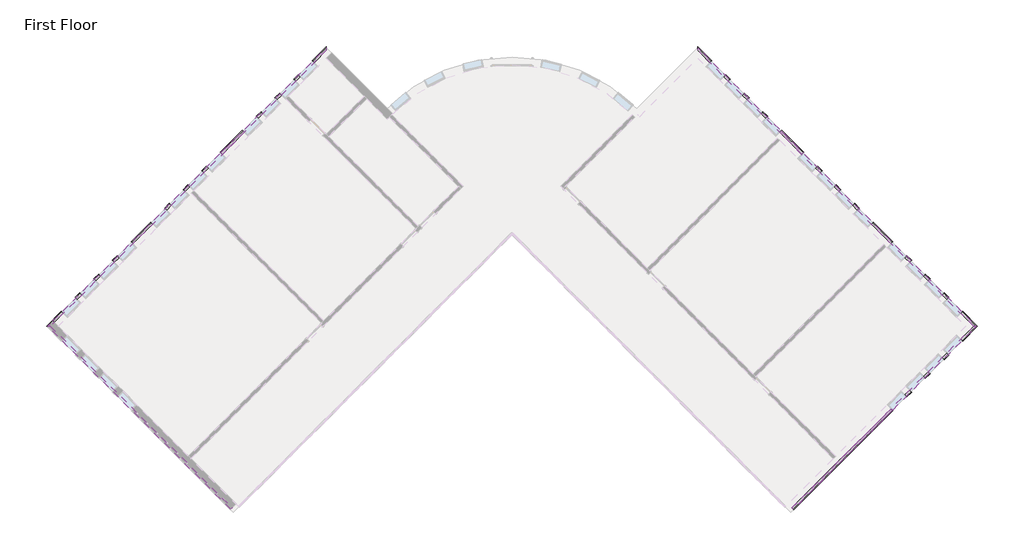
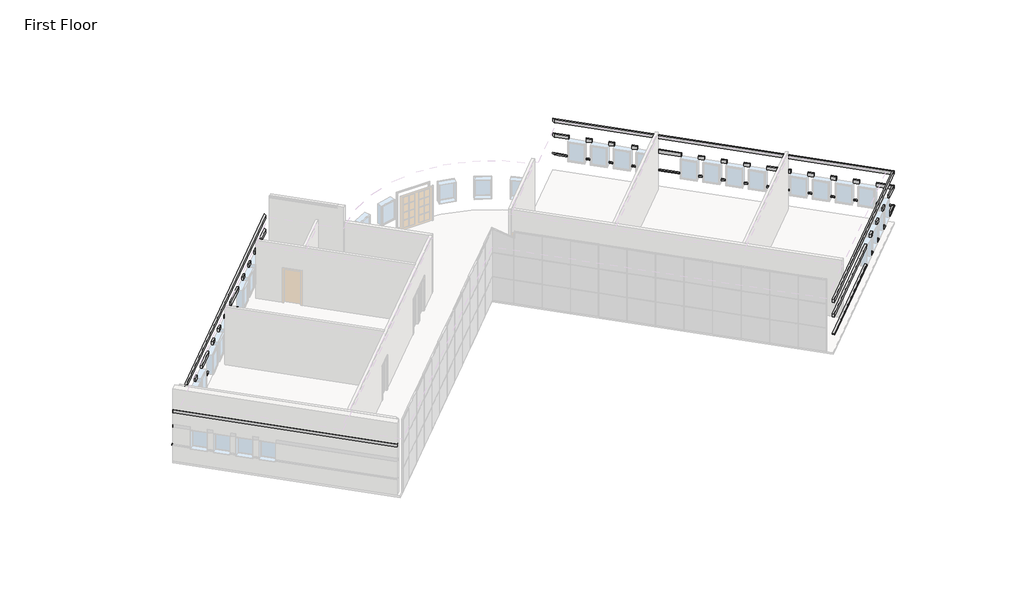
# One storey, part 5 of 5: 10 proxies.
"""IFC4 building model written with IfcOpenShell, lengths in millimetres."""

from ifc_helpers import new_model, si_unit, frame, origin, place, context, project, spatial, polyline, outline, extrude, faceted_brep, element, save

model = new_model("IFC4")

# Units and contexts
model_context = context("Model", 3, world=origin())
ifc_project = project(units=[si_unit("LENGTHUNIT", "METRE", prefix="MILLI")], contexts=[model_context])

# Site, building, storey
site = spatial("IfcSite", under=ifc_project)
building = spatial("IfcBuilding", under=site)
storey = spatial("IfcBuildingStorey", under=building, Name="First Floor", Elevation=0.0)

# Proxies
placement = place(None, origin())
element("IfcBuildingElementProxy", 1, Name="Wall Sweeps", at=placement, inside=storey, context=model_context, shape_type="Brep", body=[
    faceted_brep([(5753.0175119, 11443.3655905, 1085.85), (5753.0175119, 11573.5793042, 1085.85), (5753.0175119, 11622.9707129, 1041.4), (5753.0175119, 11622.9707129, 1016.0), (5753.0175119, 11443.3655905, 1016.0), (6317.415551, 10878.9675514, 1085.85), (6317.415551, 10878.9675514, 1016.0), (6382.5224079, 10944.0744083, 1016.0), (6407.2181122, 10968.7701126, 1016.0), (6407.2181122, 10968.7701126, 1041.4), (6382.5224079, 10944.0744083, 1085.85), (5937.1127624, 11259.27034, 1085.85), (5937.1127624, 11259.27034, 1016.0)], [[[0, 1, 2, 3, 4]], [[5, 6, 7, 8, 9, 10]], [[1, 0, 11, 5, 10]], [[2, 1, 10, 9]], [[3, 2, 9, 8]], [[4, 3, 8, 7, 6, 12]], [[0, 4, 12, 6, 5, 11]]]),
    faceted_brep([(6963.9939917, 10232.3891107, 1085.85), (7029.1008486, 10297.4959676, 1085.85), (7053.7965529, 10322.1916719, 1041.4), (7053.7965529, 10322.1916719, 1016.0), (7029.1008486, 10297.4959676, 1016.0), (6963.9939917, 10232.3891107, 1016.0), (7179.5201386, 10016.8629638, 1085.85), (7179.5201386, 10016.8629638, 1016.0), (7244.6269955, 10081.9698207, 1016.0), (7269.3226998, 10106.665525, 1016.0), (7269.3226998, 10106.665525, 1041.4), (7244.6269955, 10081.9698207, 1085.85)], [[[0, 1, 2, 3, 4, 5]], [[6, 7, 8, 9, 10, 11]], [[1, 0, 6, 11]], [[2, 1, 11, 10]], [[3, 2, 10, 9]], [[5, 4, 3, 9, 8, 7]], [[0, 5, 7, 6]]]),
    faceted_brep([(7826.0985793, 9370.2845231, 1085.85), (7891.2054362, 9435.39138, 1085.85), (7915.9011405, 9460.0870843, 1041.4), (7915.9011405, 9460.0870843, 1016.0), (7891.2054362, 9435.39138, 1016.0), (7826.0985793, 9370.2845231, 1016.0), (8041.6247262, 9154.7583762, 1085.85), (8041.6247262, 9154.7583762, 1016.0), (8106.7315831, 9219.8652331, 1016.0), (8131.4272874, 9244.5609374, 1016.0), (8131.4272874, 9244.5609374, 1041.4), (8106.7315831, 9219.8652331, 1085.85)], [[[0, 1, 2, 3, 4, 5]], [[6, 7, 8, 9, 10, 11]], [[1, 0, 6, 11]], [[2, 1, 11, 10]], [[3, 2, 10, 9]], [[5, 4, 3, 9, 8, 7]], [[0, 5, 7, 6]]]),
    faceted_brep([(8688.2031669, 8508.1799355, 1085.85), (8753.3100238, 8573.2867923, 1085.85), (8778.0057282, 8597.9824967, 1041.4), (8778.0057282, 8597.9824967, 1016.0), (8753.3100238, 8573.2867923, 1016.0), (8688.2031669, 8508.1799355, 1016.0), (8903.7293139, 8292.6537886, 1085.85), (8903.7293139, 8292.6537886, 1016.0), (8968.8361707, 8357.7606454, 1016.0), (8993.5318751, 8382.4563498, 1016.0), (8993.5318751, 8382.4563498, 1041.4), (8968.8361707, 8357.7606454, 1085.85)], [[[0, 1, 2, 3, 4, 5]], [[6, 7, 8, 9, 10, 11]], [[1, 0, 6, 11]], [[2, 1, 11, 10]], [[3, 2, 10, 9]], [[5, 4, 3, 9, 8, 7]], [[0, 5, 7, 6]]]),
    faceted_brep([(9550.3077546, 7646.0753478, 1085.85), (9615.4146114, 7711.1822047, 1085.85), (9640.1103158, 7735.877909, 1041.4), (9640.1103158, 7735.877909, 1016.0), (9615.4146114, 7711.1822047, 1016.0), (9550.3077546, 7646.0753478, 1016.0), (10574.7639411, 6621.6191613, 1085.85), (10574.7639411, 6621.6191613, 1016.0), (10639.870798, 6686.7260182, 1016.0), (10664.5665023, 6711.4217225, 1016.0), (10664.5665023, 6711.4217225, 1041.4), (10639.870798, 6686.7260182, 1085.85)], [[[0, 1, 2, 3, 4, 5]], [[6, 7, 8, 9, 10, 11]], [[1, 0, 6, 11]], [[2, 1, 11, 10]], [[3, 2, 10, 9]], [[5, 4, 3, 9, 8, 7]], [[0, 5, 7, 6]]]),
    faceted_brep([(11221.3423818, 5975.0407206, 1085.85), (11286.4492387, 6040.1475775, 1085.85), (11311.144943, 6064.8432818, 1041.4), (11311.144943, 6064.8432818, 1016.0), (11286.4492387, 6040.1475775, 1016.0), (11221.3423818, 5975.0407206, 1016.0), (11436.8685287, 5759.5145737, 1085.85), (11436.8685287, 5759.5145737, 1016.0), (11501.9753856, 5824.6214306, 1016.0), (11526.6710899, 5849.3171349, 1016.0), (11526.6710899, 5849.3171349, 1041.4), (11501.9753856, 5824.6214306, 1085.85)], [[[0, 1, 2, 3, 4, 5]], [[6, 7, 8, 9, 10, 11]], [[1, 0, 6, 11]], [[2, 1, 11, 10]], [[3, 2, 10, 9]], [[5, 4, 3, 9, 8, 7]], [[0, 5, 7, 6]]]),
    faceted_brep([(12083.4469694, 5112.936133, 1085.85), (12148.5538263, 5178.0429899, 1085.85), (12173.2495306, 5202.7386942, 1041.4), (12173.2495306, 5202.7386942, 1016.0), (12148.5538263, 5178.0429899, 1016.0), (12083.4469694, 5112.936133, 1016.0), (12298.9731163, 4897.4099861, 1085.85), (12298.9731163, 4897.4099861, 1016.0), (12364.0799732, 4962.516843, 1016.0), (12388.7756775, 4987.2125473, 1016.0), (12388.7756775, 4987.2125473, 1041.4), (12364.0799732, 4962.516843, 1085.85)], [[[0, 1, 2, 3, 4, 5]], [[6, 7, 8, 9, 10, 11]], [[1, 0, 6, 11]], [[2, 1, 11, 10]], [[3, 2, 10, 9]], [[5, 4, 3, 9, 8, 7]], [[0, 5, 7, 6]]]),
    faceted_brep([(12945.551557, 4250.8315454, 1085.85), (13010.6584139, 4315.9384023, 1085.85), (13035.3541182, 4340.6341066, 1041.4), (13035.3541182, 4340.6341066, 1016.0), (13010.6584139, 4315.9384023, 1016.0), (12945.551557, 4250.8315454, 1016.0), (13161.0777039, 4035.3053985, 1085.85), (13161.0777039, 4035.3053985, 1016.0), (13226.1845608, 4100.4122553, 1016.0), (13250.8802652, 4125.1079597, 1016.0), (13250.8802652, 4125.1079597, 1041.4), (13226.1845608, 4100.4122553, 1085.85)], [[[0, 1, 2, 3, 4, 5]], [[6, 7, 8, 9, 10, 11]], [[1, 0, 6, 11]], [[2, 1, 11, 10]], [[3, 2, 10, 9]], [[5, 4, 3, 9, 8, 7]], [[0, 5, 7, 6]]]),
    faceted_brep([(13807.6561447, 3388.7269578, 1085.85), (13872.7630015, 3453.8338146, 1085.85), (13897.4587059, 3478.529519, 1041.4), (13897.4587059, 3478.529519, 1016.0), (13872.7630015, 3453.8338146, 1016.0), (13807.6561447, 3388.7269578, 1016.0), (14723.1708449, 2473.2122576, 1085.85), (14723.1708449, 2473.2122576, 1016.0), (14788.2777017, 2538.3191144, 1016.0), (14812.9734061, 2563.0148188, 1016.0), (14812.9734061, 2563.0148188, 1041.4), (14788.2777017, 2538.3191144, 1085.85)], [[[0, 1, 2, 3, 4, 5]], [[6, 7, 8, 9, 10, 11]], [[1, 0, 6, 11]], [[2, 1, 11, 10]], [[3, 2, 10, 9]], [[5, 4, 3, 9, 8, 7]], [[0, 5, 7, 6]]]),
    faceted_brep([(15369.7492856, 1826.6338168, 1085.85), (15434.8561424, 1891.7406737, 1085.85), (15459.5518468, 1916.4363781, 1041.4), (15459.5518468, 1916.4363781, 1016.0), (15434.8561424, 1891.7406737, 1016.0), (15369.7492856, 1826.6338168, 1016.0), (15585.2754325, 1611.1076699, 1085.85), (15585.2754325, 1611.1076699, 1016.0), (15650.3822894, 1676.2145268, 1016.0), (15675.0779937, 1700.9102311, 1016.0), (15675.0779937, 1700.9102311, 1041.4), (15650.3822894, 1676.2145268, 1085.85)], [[[0, 1, 2, 3, 4, 5]], [[6, 7, 8, 9, 10, 11]], [[1, 0, 6, 11]], [[2, 1, 11, 10]], [[3, 2, 10, 9]], [[5, 4, 3, 9, 8, 7]], [[0, 5, 7, 6]]]),
    faceted_brep([(16231.8538732, 964.5292292, 1085.85), (16296.9607301, 1029.6360861, 1085.85), (16321.6564344, 1054.3317904, 1041.4), (16321.6564344, 1054.3317904, 1016.0), (16296.9607301, 1029.6360861, 1016.0), (16231.8538732, 964.5292292, 1016.0), (16447.3800201, 749.0030823, 1085.85), (16447.3800201, 749.0030823, 1016.0), (16512.486877, 814.1099392, 1016.0), (16537.1825813, 838.8056435, 1016.0), (16537.1825813, 838.8056435, 1041.4), (16512.486877, 814.1099392, 1085.85)], [[[0, 1, 2, 3, 4, 5]], [[6, 7, 8, 9, 10, 11]], [[1, 0, 6, 11]], [[2, 1, 11, 10]], [[3, 2, 10, 9]], [[5, 4, 3, 9, 8, 7]], [[0, 5, 7, 6]]]),
    faceted_brep([(17093.9584608, 102.4246416, 1085.85), (17159.0653177, 167.5314985, 1085.85), (17183.761022, 192.2272028, 1041.4), (17183.761022, 192.2272028, 1016.0), (17159.0653177, 167.5314985, 1016.0), (17093.9584608, 102.4246416, 1016.0), (17309.4846077, -113.1015053, 1085.85), (17309.4846077, -113.1015053, 1016.0), (17374.5914646, -47.9946484, 1016.0), (17399.2871689, -23.2989441, 1016.0), (17399.2871689, -23.2989441, 1041.4), (17374.5914646, -47.9946484, 1085.85)], [[[0, 1, 2, 3, 4, 5]], [[6, 7, 8, 9, 10, 11]], [[1, 0, 6, 11]], [[2, 1, 11, 10]], [[3, 2, 10, 9]], [[5, 4, 3, 9, 8, 7]], [[0, 5, 7, 6]]]),
    faceted_brep([(17956.0630484, -759.679946, 1085.85), (18021.1699053, -694.5730891, 1085.85), (18045.8656096, -669.8773848, 1041.4), (18045.8656096, -669.8773848, 1016.0), (18021.1699053, -694.5730891, 1016.0), (17956.0630484, -759.679946, 1016.0), (18554.3726125, -1357.9895101, 1085.85), (18554.3726125, -1357.9895101, 1016.0), (18733.9777349, -1357.9895101, 1016.0), (18733.9777349, -1357.9895101, 1041.4), (18684.5863263, -1357.9895101, 1085.85)], [[[0, 1, 2, 3, 4, 5]], [[6, 7, 8, 9, 10]], [[1, 0, 6, 10]], [[2, 1, 10, 9]], [[3, 2, 9, 8]], [[5, 4, 3, 8, 7]], [[0, 5, 7, 6]]]),
])
element("IfcBuildingElementProxy", 2, Name="Wall Sweeps", at=placement, inside=storey, context=model_context, shape_type="Brep", body=[
    faceted_brep([(5753.0175119, 11573.5793042, 2336.8), (5753.0175119, 11573.5793042, 2133.6), (5753.0175119, 11443.3655905, 2133.6), (5753.0175119, 11443.3655905, 2336.8), (6382.5224079, 10944.0744083, 2336.8), (6317.415551, 10878.9675514, 2336.8), (6317.415551, 10878.9675514, 2133.6), (6382.5224079, 10944.0744083, 2133.6), (6002.2196193, 11324.3771969, 2336.8), (6002.2196193, 11324.3771969, 2133.6), (5937.1127624, 11259.27034, 2133.6), (5937.1127624, 11259.27034, 2336.8)], [[[0, 1, 2, 3]], [[4, 5, 6, 7]], [[1, 0, 8, 4, 7, 9]], [[2, 1, 9, 7, 6, 10]], [[3, 2, 10, 6, 5, 11]], [[0, 3, 11, 5, 4, 8]]]),
    faceted_brep([(7029.1008486, 10297.4959676, 2336.8), (7029.1008486, 10297.4959676, 2133.6), (6963.9939917, 10232.3891107, 2133.6), (6963.9939917, 10232.3891107, 2336.8), (7244.6269955, 10081.9698207, 2336.8), (7179.5201386, 10016.8629638, 2336.8), (7179.5201386, 10016.8629638, 2133.6), (7244.6269955, 10081.9698207, 2133.6)], [[[0, 1, 2, 3]], [[4, 5, 6, 7]], [[1, 0, 4, 7]], [[2, 1, 7, 6]], [[3, 2, 6, 5]], [[0, 3, 5, 4]]]),
    faceted_brep([(7891.2054362, 9435.39138, 2336.8), (7891.2054362, 9435.39138, 2133.6), (7826.0985793, 9370.2845231, 2133.6), (7826.0985793, 9370.2845231, 2336.8), (8106.7315831, 9219.8652331, 2336.8), (8041.6247262, 9154.7583762, 2336.8), (8041.6247262, 9154.7583762, 2133.6), (8106.7315831, 9219.8652331, 2133.6)], [[[0, 1, 2, 3]], [[4, 5, 6, 7]], [[1, 0, 4, 7]], [[2, 1, 7, 6]], [[3, 2, 6, 5]], [[0, 3, 5, 4]]]),
    faceted_brep([(8753.3100238, 8573.2867923, 2336.8), (8753.3100238, 8573.2867923, 2133.6), (8688.2031669, 8508.1799355, 2133.6), (8688.2031669, 8508.1799355, 2336.8), (8968.8361707, 8357.7606454, 2336.8), (8903.7293139, 8292.6537886, 2336.8), (8903.7293139, 8292.6537886, 2133.6), (8968.8361707, 8357.7606454, 2133.6)], [[[0, 1, 2, 3]], [[4, 5, 6, 7]], [[1, 0, 4, 7]], [[2, 1, 7, 6]], [[3, 2, 6, 5]], [[0, 3, 5, 4]]]),
    faceted_brep([(9615.4146114, 7711.1822047, 2336.8), (9615.4146114, 7711.1822047, 2133.6), (9550.3077546, 7646.0753478, 2133.6), (9550.3077546, 7646.0753478, 2336.8), (10639.870798, 6686.7260182, 2336.8), (10574.7639411, 6621.6191613, 2336.8), (10574.7639411, 6621.6191613, 2133.6), (10639.870798, 6686.7260182, 2133.6)], [[[0, 1, 2, 3]], [[4, 5, 6, 7]], [[1, 0, 4, 7]], [[2, 1, 7, 6]], [[3, 2, 6, 5]], [[0, 3, 5, 4]]]),
    faceted_brep([(11286.4492387, 6040.1475775, 2336.8), (11286.4492387, 6040.1475775, 2133.6), (11221.3423818, 5975.0407206, 2133.6), (11221.3423818, 5975.0407206, 2336.8), (11501.9753856, 5824.6214306, 2336.8), (11436.8685287, 5759.5145737, 2336.8), (11436.8685287, 5759.5145737, 2133.6), (11501.9753856, 5824.6214306, 2133.6)], [[[0, 1, 2, 3]], [[4, 5, 6, 7]], [[1, 0, 4, 7]], [[2, 1, 7, 6]], [[3, 2, 6, 5]], [[0, 3, 5, 4]]]),
    faceted_brep([(12148.5538263, 5178.0429899, 2336.8), (12148.5538263, 5178.0429899, 2133.6), (12083.4469694, 5112.936133, 2133.6), (12083.4469694, 5112.936133, 2336.8), (12364.0799732, 4962.516843, 2336.8), (12298.9731163, 4897.4099861, 2336.8), (12298.9731163, 4897.4099861, 2133.6), (12364.0799732, 4962.516843, 2133.6)], [[[0, 1, 2, 3]], [[4, 5, 6, 7]], [[1, 0, 4, 7]], [[2, 1, 7, 6]], [[3, 2, 6, 5]], [[0, 3, 5, 4]]]),
    faceted_brep([(13010.6584139, 4315.9384023, 2336.8), (13010.6584139, 4315.9384023, 2133.6), (12945.551557, 4250.8315454, 2133.6), (12945.551557, 4250.8315454, 2336.8), (13226.1845608, 4100.4122553, 2336.8), (13161.0777039, 4035.3053985, 2336.8), (13161.0777039, 4035.3053985, 2133.6), (13226.1845608, 4100.4122553, 2133.6)], [[[0, 1, 2, 3]], [[4, 5, 6, 7]], [[1, 0, 4, 7]], [[2, 1, 7, 6]], [[3, 2, 6, 5]], [[0, 3, 5, 4]]]),
    faceted_brep([(13872.7630015, 3453.8338146, 2336.8), (13872.7630015, 3453.8338146, 2133.6), (13807.6561447, 3388.7269578, 2133.6), (13807.6561447, 3388.7269578, 2336.8), (14788.2777017, 2538.3191144, 2336.8), (14723.1708449, 2473.2122576, 2336.8), (14723.1708449, 2473.2122576, 2133.6), (14788.2777017, 2538.3191144, 2133.6)], [[[0, 1, 2, 3]], [[4, 5, 6, 7]], [[1, 0, 4, 7]], [[2, 1, 7, 6]], [[3, 2, 6, 5]], [[0, 3, 5, 4]]]),
    faceted_brep([(15434.8561424, 1891.7406737, 2336.8), (15434.8561424, 1891.7406737, 2133.6), (15369.7492856, 1826.6338168, 2133.6), (15369.7492856, 1826.6338168, 2336.8), (15650.3822894, 1676.2145268, 2336.8), (15585.2754325, 1611.1076699, 2336.8), (15585.2754325, 1611.1076699, 2133.6), (15650.3822894, 1676.2145268, 2133.6)], [[[0, 1, 2, 3]], [[4, 5, 6, 7]], [[1, 0, 4, 7]], [[2, 1, 7, 6]], [[3, 2, 6, 5]], [[0, 3, 5, 4]]]),
    faceted_brep([(16296.9607301, 1029.6360861, 2336.8), (16296.9607301, 1029.6360861, 2133.6), (16231.8538732, 964.5292292, 2133.6), (16231.8538732, 964.5292292, 2336.8), (16512.486877, 814.1099392, 2336.8), (16447.3800201, 749.0030823, 2336.8), (16447.3800201, 749.0030823, 2133.6), (16512.486877, 814.1099392, 2133.6)], [[[0, 1, 2, 3]], [[4, 5, 6, 7]], [[1, 0, 4, 7]], [[2, 1, 7, 6]], [[3, 2, 6, 5]], [[0, 3, 5, 4]]]),
    faceted_brep([(17159.0653177, 167.5314985, 2336.8), (17159.0653177, 167.5314985, 2133.6), (17093.9584608, 102.4246416, 2133.6), (17093.9584608, 102.4246416, 2336.8), (17374.5914646, -47.9946484, 2336.8), (17309.4846077, -113.1015053, 2336.8), (17309.4846077, -113.1015053, 2133.6), (17374.5914646, -47.9946484, 2133.6)], [[[0, 1, 2, 3]], [[4, 5, 6, 7]], [[1, 0, 4, 7]], [[2, 1, 7, 6]], [[3, 2, 6, 5]], [[0, 3, 5, 4]]]),
    faceted_brep([(18021.1699053, -694.5730891, 2336.8), (18021.1699053, -694.5730891, 2133.6), (17956.0630484, -759.679946, 2133.6), (17956.0630484, -759.679946, 2336.8), (18684.5863263, -1357.9895101, 2336.8), (18554.3726125, -1357.9895101, 2336.8), (18554.3726125, -1357.9895101, 2133.6), (18684.5863263, -1357.9895101, 2133.6)], [[[0, 1, 2, 3]], [[4, 5, 6, 7]], [[1, 0, 4, 7]], [[2, 1, 7, 6]], [[3, 2, 6, 5]], [[0, 3, 5, 4]]]),
])
element("IfcBuildingElementProxy", 3, Name="Wall Sweeps", at=placement, inside=storey, context=model_context, shape_type="Brep", body=[
    faceted_brep([(5753.0175119, 11573.5793042, 3251.2), (5753.0175119, 11573.5793042, 3048.0), (5753.0175119, 11443.3655905, 3048.0), (5753.0175119, 11443.3655905, 3251.2), (18684.5863263, -1357.9895101, 3251.2), (18554.3726125, -1357.9895101, 3251.2), (18554.3726125, -1357.9895101, 3048.0), (18684.5863263, -1357.9895101, 3048.0), (6002.2196193, 11324.3771969, 3251.2), (6002.2196193, 11324.3771969, 3048.0), (5937.1127624, 11259.27034, 3048.0), (5937.1127624, 11259.27034, 3251.2)], [[[0, 1, 2, 3]], [[4, 5, 6, 7]], [[1, 0, 8, 4, 7, 9]], [[2, 1, 9, 7, 6, 10]], [[3, 2, 10, 6, 5, 11]], [[0, 3, 11, 5, 4, 8]]]),
])
element("IfcBuildingElementProxy", 4, Name="Wall Sweeps", at=placement, inside=storey, context=model_context, shape_type="Brep", body=[
    faceted_brep([(18554.3726125, -1357.9895101, 1085.85), (18684.5863263, -1357.9895101, 1085.85), (18733.9777349, -1357.9895101, 1041.4), (18733.9777349, -1357.9895101, 1016.0), (18554.3726125, -1357.9895101, 1016.0), (17956.0630484, -1956.2990742, 1085.85), (17956.0630484, -1956.2990742, 1016.0), (18021.1699053, -2021.405931, 1016.0), (18045.8656096, -2046.1016354, 1016.0), (18045.8656096, -2046.1016354, 1041.4), (18021.1699053, -2021.405931, 1085.85), (18370.277362, -1542.0847606, 1085.85), (18370.277362, -1542.0847606, 1016.0)], [[[0, 1, 2, 3, 4]], [[5, 6, 7, 8, 9, 10]], [[1, 0, 11, 5, 10]], [[2, 1, 10, 9]], [[3, 2, 9, 8]], [[4, 3, 8, 7, 6, 12]], [[0, 4, 12, 6, 5, 11]]]),
    faceted_brep([(17309.4846077, -2602.8775149, 1085.85), (17374.5914646, -2667.9843718, 1085.85), (17399.2871689, -2692.6800761, 1041.4), (17399.2871689, -2692.6800761, 1016.0), (17374.5914646, -2667.9843718, 1016.0), (17309.4846077, -2602.8775149, 1016.0), (17093.9584608, -2818.4036618, 1085.85), (17093.9584608, -2818.4036618, 1016.0), (17159.0653177, -2883.5105187, 1016.0), (17183.761022, -2908.206223, 1016.0), (17183.761022, -2908.206223, 1041.4), (17159.0653177, -2883.5105187, 1085.85)], [[[0, 1, 2, 3, 4, 5]], [[6, 7, 8, 9, 10, 11]], [[1, 0, 6, 11]], [[2, 1, 11, 10]], [[3, 2, 10, 9]], [[5, 4, 3, 9, 8, 7]], [[0, 5, 7, 6]]]),
    faceted_brep([(16447.3800201, -3464.9821025, 1085.85), (16512.486877, -3530.0889594, 1085.85), (16537.1825813, -3554.7846637, 1041.4), (16537.1825813, -3554.7846637, 1016.0), (16512.486877, -3530.0889594, 1016.0), (16447.3800201, -3464.9821025, 1016.0), (16231.8538732, -3680.5082494, 1085.85), (16231.8538732, -3680.5082494, 1016.0), (16296.9607301, -3745.6151063, 1016.0), (16321.6564344, -3770.3108106, 1016.0), (16321.6564344, -3770.3108106, 1041.4), (16296.9607301, -3745.6151063, 1085.85)], [[[0, 1, 2, 3, 4, 5]], [[6, 7, 8, 9, 10, 11]], [[1, 0, 6, 11]], [[2, 1, 11, 10]], [[3, 2, 10, 9]], [[5, 4, 3, 9, 8, 7]], [[0, 5, 7, 6]]]),
    faceted_brep([(15585.2754325, -4327.0866901, 1085.85), (15650.3822894, -4392.193547, 1085.85), (15675.0779937, -4416.8892513, 1041.4), (15675.0779937, -4416.8892513, 1016.0), (15650.3822894, -4392.193547, 1016.0), (15585.2754325, -4327.0866901, 1016.0), (15369.7492856, -4542.612837, 1085.85), (15369.7492856, -4542.612837, 1016.0), (15434.8561424, -4607.7196939, 1016.0), (15459.5518468, -4632.4153982, 1016.0), (15459.5518468, -4632.4153982, 1041.4), (15434.8561424, -4607.7196939, 1085.85)], [[[0, 1, 2, 3, 4, 5]], [[6, 7, 8, 9, 10, 11]], [[1, 0, 6, 11]], [[2, 1, 11, 10]], [[3, 2, 10, 9]], [[5, 4, 3, 9, 8, 7]], [[0, 5, 7, 6]]]),
    faceted_brep([(14723.1708449, -5189.1912777, 1085.85), (14788.2777017, -5254.2981346, 1085.85), (14812.9734061, -5278.993839, 1041.4), (14812.9734061, -5278.993839, 1016.0), (14788.2777017, -5254.2981346, 1016.0), (14723.1708449, -5189.1912777, 1016.0), (10123.0346468, -9789.3274758, 1085.85), (10123.0346468, -9789.3274758, 1016.0), (10188.1415037, -9854.4343326, 1016.0), (10212.837208, -9879.130037, 1016.0), (10212.837208, -9879.130037, 1041.4), (10188.1415037, -9854.4343326, 1085.85)], [[[0, 1, 2, 3, 4, 5]], [[6, 7, 8, 9, 10, 11]], [[1, 0, 6, 11]], [[2, 1, 11, 10]], [[3, 2, 10, 9]], [[5, 4, 3, 9, 8, 7]], [[0, 5, 7, 6]]]),
])
element("IfcBuildingElementProxy", 5, Name="Wall Sweeps", at=placement, inside=storey, context=model_context, shape_type="Brep", body=[
    faceted_brep([(18684.5863263, -1357.9895101, 2336.8), (18684.5863263, -1357.9895101, 2133.6), (18554.3726125, -1357.9895101, 2133.6), (18554.3726125, -1357.9895101, 2336.8), (18021.1699053, -2021.405931, 2336.8), (17956.0630484, -1956.2990742, 2336.8), (17956.0630484, -1956.2990742, 2133.6), (18021.1699053, -2021.405931, 2133.6), (18435.3842189, -1607.1916175, 2336.8), (18435.3842189, -1607.1916175, 2133.6), (18370.277362, -1542.0847606, 2133.6), (18370.277362, -1542.0847606, 2336.8)], [[[0, 1, 2, 3]], [[4, 5, 6, 7]], [[1, 0, 8, 4, 7, 9]], [[2, 1, 9, 7, 6, 10]], [[3, 2, 10, 6, 5, 11]], [[0, 3, 11, 5, 4, 8]]]),
    faceted_brep([(17374.5914646, -2667.9843718, 2336.8), (17374.5914646, -2667.9843718, 2133.6), (17309.4846077, -2602.8775149, 2133.6), (17309.4846077, -2602.8775149, 2336.8), (17159.0653177, -2883.5105187, 2336.8), (17093.9584608, -2818.4036618, 2336.8), (17093.9584608, -2818.4036618, 2133.6), (17159.0653177, -2883.5105187, 2133.6)], [[[0, 1, 2, 3]], [[4, 5, 6, 7]], [[1, 0, 4, 7]], [[2, 1, 7, 6]], [[3, 2, 6, 5]], [[0, 3, 5, 4]]]),
    faceted_brep([(16512.486877, -3530.0889594, 2336.8), (16512.486877, -3530.0889594, 2133.6), (16447.3800201, -3464.9821025, 2133.6), (16447.3800201, -3464.9821025, 2336.8), (16296.9607301, -3745.6151063, 2336.8), (16231.8538732, -3680.5082494, 2336.8), (16231.8538732, -3680.5082494, 2133.6), (16296.9607301, -3745.6151063, 2133.6)], [[[0, 1, 2, 3]], [[4, 5, 6, 7]], [[1, 0, 4, 7]], [[2, 1, 7, 6]], [[3, 2, 6, 5]], [[0, 3, 5, 4]]]),
    faceted_brep([(15650.3822894, -4392.193547, 2336.8), (15650.3822894, -4392.193547, 2133.6), (15585.2754325, -4327.0866901, 2133.6), (15585.2754325, -4327.0866901, 2336.8), (15434.8561424, -4607.7196939, 2336.8), (15369.7492856, -4542.612837, 2336.8), (15369.7492856, -4542.612837, 2133.6), (15434.8561424, -4607.7196939, 2133.6)], [[[0, 1, 2, 3]], [[4, 5, 6, 7]], [[1, 0, 4, 7]], [[2, 1, 7, 6]], [[3, 2, 6, 5]], [[0, 3, 5, 4]]]),
    faceted_brep([(14788.2777017, -5254.2981346, 2336.8), (14788.2777017, -5254.2981346, 2133.6), (14723.1708449, -5189.1912777, 2133.6), (14723.1708449, -5189.1912777, 2336.8), (10188.1415037, -9854.4343326, 2336.8), (10123.0346468, -9789.3274758, 2336.8), (10123.0346468, -9789.3274758, 2133.6), (10188.1415037, -9854.4343326, 2133.6)], [[[0, 1, 2, 3]], [[4, 5, 6, 7]], [[1, 0, 4, 7]], [[2, 1, 7, 6]], [[3, 2, 6, 5]], [[0, 3, 5, 4]]]),
])
element("IfcBuildingElementProxy", 6, Name="Wall Sweeps", at=placement, inside=storey, context=model_context, shape_type="Brep", body=[
    faceted_brep([(18684.5863263, -1357.9895101, 3251.2), (18684.5863263, -1357.9895101, 3048.0), (18554.3726125, -1357.9895101, 3048.0), (18554.3726125, -1357.9895101, 3251.2), (10188.1415037, -9854.4343326, 3251.2), (10123.0346468, -9789.3274758, 3251.2), (10123.0346468, -9789.3274758, 3048.0), (10188.1415037, -9854.4343326, 3048.0), (18435.3842189, -1607.1916175, 3251.2), (18435.3842189, -1607.1916175, 3048.0), (18370.277362, -1542.0847606, 3048.0), (18370.277362, -1542.0847606, 3251.2)], [[[0, 1, 2, 3]], [[4, 5, 6, 7]], [[1, 0, 8, 4, 7, 9]], [[2, 1, 9, 7, 6, 10]], [[3, 2, 10, 6, 5, 11]], [[0, 3, 11, 5, 4, 8]]]),
])
element("IfcBuildingElementProxy", 7, Name="Wall Sweeps", at=placement, inside=storey, context=model_context, shape_type="SweptSolid", body=[
    extrude(outline(polyline([(-15859.0913754, -9789.3274758), (-15924.1982323, -9854.4343326), (-24420.6430549, -1357.9895101), (-24290.4293411, -1357.9895101), (-15859.0913754, -9789.3274758)])), frame((0.0, 0.0, 3048.0), z_axis=(0.0, 0.0, 1.0), x_axis=(1.0, 0.0, 0.0)), (0.0, 0.0, 1.0), 203.2),
])
element("IfcBuildingElementProxy", 8, Name="Wall Sweeps", at=placement, inside=storey, context=model_context, shape_type="Brep", body=[
    faceted_brep([(-24290.4293411, -1357.9895101, 1085.85), (-24420.6430549, -1357.9895101, 1085.85), (-24470.0344635, -1357.9895101, 1041.4), (-24470.0344635, -1357.9895101, 1016.0), (-24290.4293411, -1357.9895101, 1016.0), (-23692.119777, -759.679946, 1085.85), (-23692.119777, -759.679946, 1016.0), (-23757.2266339, -694.5730891, 1016.0), (-23781.9223383, -669.8773848, 1016.0), (-23781.9223383, -669.8773848, 1041.4), (-23757.2266339, -694.5730891, 1085.85), (-24106.3340906, -1173.8942596, 1085.85), (-24106.3340906, -1173.8942596, 1016.0)], [[[0, 1, 2, 3, 4]], [[5, 6, 7, 8, 9, 10]], [[1, 0, 11, 5, 10]], [[2, 1, 10, 9]], [[3, 2, 9, 8]], [[4, 3, 8, 7, 6, 12]], [[0, 4, 12, 6, 5, 11]]]),
    faceted_brep([(-23045.5413363, -113.1015053, 1085.85), (-23110.6481932, -47.9946484, 1085.85), (-23135.3438975, -23.2989441, 1041.4), (-23135.3438975, -23.2989441, 1016.0), (-23110.6481932, -47.9946484, 1016.0), (-23045.5413363, -113.1015053, 1016.0), (-22830.0151894, 102.4246416, 1085.85), (-22830.0151894, 102.4246416, 1016.0), (-22895.1220463, 167.5314985, 1016.0), (-22919.8177506, 192.2272028, 1016.0), (-22919.8177506, 192.2272028, 1041.4), (-22895.1220463, 167.5314985, 1085.85)], [[[0, 1, 2, 3, 4, 5]], [[6, 7, 8, 9, 10, 11]], [[1, 0, 6, 11]], [[2, 1, 11, 10]], [[3, 2, 10, 9]], [[5, 4, 3, 9, 8, 7]], [[0, 5, 7, 6]]]),
    faceted_brep([(-22183.4367487, 749.0030823, 1085.85), (-22248.5436056, 814.1099392, 1085.85), (-22273.2393099, 838.8056435, 1041.4), (-22273.2393099, 838.8056435, 1016.0), (-22248.5436056, 814.1099392, 1016.0), (-22183.4367487, 749.0030823, 1016.0), (-21967.9106018, 964.5292292, 1085.85), (-21967.9106018, 964.5292292, 1016.0), (-22033.0174587, 1029.6360861, 1016.0), (-22057.713163, 1054.3317904, 1016.0), (-22057.713163, 1054.3317904, 1041.4), (-22033.0174587, 1029.6360861, 1085.85)], [[[0, 1, 2, 3, 4, 5]], [[6, 7, 8, 9, 10, 11]], [[1, 0, 6, 11]], [[2, 1, 11, 10]], [[3, 2, 10, 9]], [[5, 4, 3, 9, 8, 7]], [[0, 5, 7, 6]]]),
    faceted_brep([(-21321.3321611, 1611.1076699, 1085.85), (-21386.439018, 1676.2145268, 1085.85), (-21411.1347223, 1700.9102311, 1041.4), (-21411.1347223, 1700.9102311, 1016.0), (-21386.439018, 1676.2145268, 1016.0), (-21321.3321611, 1611.1076699, 1016.0), (-21105.8060142, 1826.6338168, 1085.85), (-21105.8060142, 1826.6338168, 1016.0), (-21170.9128711, 1891.7406737, 1016.0), (-21195.6085754, 1916.4363781, 1016.0), (-21195.6085754, 1916.4363781, 1041.4), (-21170.9128711, 1891.7406737, 1085.85)], [[[0, 1, 2, 3, 4, 5]], [[6, 7, 8, 9, 10, 11]], [[1, 0, 6, 11]], [[2, 1, 11, 10]], [[3, 2, 10, 9]], [[5, 4, 3, 9, 8, 7]], [[0, 5, 7, 6]]]),
    faceted_brep([(-20459.2275735, 2473.2122576, 1085.85), (-20524.3344303, 2538.3191144, 1085.85), (-20549.0301347, 2563.0148188, 1041.4), (-20549.0301347, 2563.0148188, 1016.0), (-20524.3344303, 2538.3191144, 1016.0), (-20459.2275735, 2473.2122576, 1016.0), (-19543.7128733, 3388.7269578, 1085.85), (-19543.7128733, 3388.7269578, 1016.0), (-19608.8197301, 3453.8338146, 1016.0), (-19633.5154345, 3478.529519, 1016.0), (-19633.5154345, 3478.529519, 1041.4), (-19608.8197301, 3453.8338146, 1085.85)], [[[0, 1, 2, 3, 4, 5]], [[6, 7, 8, 9, 10, 11]], [[1, 0, 6, 11]], [[2, 1, 11, 10]], [[3, 2, 10, 9]], [[5, 4, 3, 9, 8, 7]], [[0, 5, 7, 6]]]),
    faceted_brep([(-18897.1344326, 4035.3053985, 1085.85), (-18962.2412894, 4100.4122553, 1085.85), (-18986.9369938, 4125.1079597, 1041.4), (-18986.9369938, 4125.1079597, 1016.0), (-18962.2412894, 4100.4122553, 1016.0), (-18897.1344326, 4035.3053985, 1016.0), (-18681.6082856, 4250.8315454, 1085.85), (-18681.6082856, 4250.8315454, 1016.0), (-18746.7151425, 4315.9384023, 1016.0), (-18771.4108469, 4340.6341066, 1016.0), (-18771.4108469, 4340.6341066, 1041.4), (-18746.7151425, 4315.9384023, 1085.85)], [[[0, 1, 2, 3, 4, 5]], [[6, 7, 8, 9, 10, 11]], [[1, 0, 6, 11]], [[2, 1, 11, 10]], [[3, 2, 10, 9]], [[5, 4, 3, 9, 8, 7]], [[0, 5, 7, 6]]]),
    faceted_brep([(-18035.0298449, 4897.4099861, 1085.85), (-18100.1367018, 4962.516843, 1085.85), (-18124.8324061, 4987.2125473, 1041.4), (-18124.8324061, 4987.2125473, 1016.0), (-18100.1367018, 4962.516843, 1016.0), (-18035.0298449, 4897.4099861, 1016.0), (-17819.503698, 5112.936133, 1085.85), (-17819.503698, 5112.936133, 1016.0), (-17884.6105549, 5178.0429899, 1016.0), (-17909.3062592, 5202.7386942, 1016.0), (-17909.3062592, 5202.7386942, 1041.4), (-17884.6105549, 5178.0429899, 1085.85)], [[[0, 1, 2, 3, 4, 5]], [[6, 7, 8, 9, 10, 11]], [[1, 0, 6, 11]], [[2, 1, 11, 10]], [[3, 2, 10, 9]], [[5, 4, 3, 9, 8, 7]], [[0, 5, 7, 6]]]),
    faceted_brep([(-17172.9252573, 5759.5145737, 1085.85), (-17238.0321142, 5824.6214306, 1085.85), (-17262.7278185, 5849.3171349, 1041.4), (-17262.7278185, 5849.3171349, 1016.0), (-17238.0321142, 5824.6214306, 1016.0), (-17172.9252573, 5759.5145737, 1016.0), (-16957.3991104, 5975.0407206, 1085.85), (-16957.3991104, 5975.0407206, 1016.0), (-17022.5059673, 6040.1475775, 1016.0), (-17047.2016716, 6064.8432818, 1016.0), (-17047.2016716, 6064.8432818, 1041.4), (-17022.5059673, 6040.1475775, 1085.85)], [[[0, 1, 2, 3, 4, 5]], [[6, 7, 8, 9, 10, 11]], [[1, 0, 6, 11]], [[2, 1, 11, 10]], [[3, 2, 10, 9]], [[5, 4, 3, 9, 8, 7]], [[0, 5, 7, 6]]]),
    faceted_brep([(-16310.8206697, 6621.6191613, 1085.85), (-16375.9275266, 6686.7260182, 1085.85), (-16400.6232309, 6711.4217225, 1041.4), (-16400.6232309, 6711.4217225, 1016.0), (-16375.9275266, 6686.7260182, 1016.0), (-16310.8206697, 6621.6191613, 1016.0), (-15286.3644832, 7646.0753478, 1085.85), (-15286.3644832, 7646.0753478, 1016.0), (-15351.4713401, 7711.1822047, 1016.0), (-15376.1670444, 7735.877909, 1016.0), (-15376.1670444, 7735.877909, 1041.4), (-15351.4713401, 7711.1822047, 1085.85)], [[[0, 1, 2, 3, 4, 5]], [[6, 7, 8, 9, 10, 11]], [[1, 0, 6, 11]], [[2, 1, 11, 10]], [[3, 2, 10, 9]], [[5, 4, 3, 9, 8, 7]], [[0, 5, 7, 6]]]),
    faceted_brep([(-14639.7860425, 8292.6537886, 1085.85), (-14704.8928993, 8357.7606454, 1085.85), (-14729.5886037, 8382.4563498, 1041.4), (-14729.5886037, 8382.4563498, 1016.0), (-14704.8928993, 8357.7606454, 1016.0), (-14639.7860425, 8292.6537886, 1016.0), (-14424.2598956, 8508.1799355, 1085.85), (-14424.2598956, 8508.1799355, 1016.0), (-14489.3667524, 8573.2867923, 1016.0), (-14514.0624568, 8597.9824967, 1016.0), (-14514.0624568, 8597.9824967, 1041.4), (-14489.3667524, 8573.2867923, 1085.85)], [[[0, 1, 2, 3, 4, 5]], [[6, 7, 8, 9, 10, 11]], [[1, 0, 6, 11]], [[2, 1, 11, 10]], [[3, 2, 10, 9]], [[5, 4, 3, 9, 8, 7]], [[0, 5, 7, 6]]]),
    faceted_brep([(-13777.6814548, 9154.7583762, 1085.85), (-13842.7883117, 9219.8652331, 1085.85), (-13867.4840161, 9244.5609374, 1041.4), (-13867.4840161, 9244.5609374, 1016.0), (-13842.7883117, 9219.8652331, 1016.0), (-13777.6814548, 9154.7583762, 1016.0), (-13562.1553079, 9370.2845231, 1085.85), (-13562.1553079, 9370.2845231, 1016.0), (-13627.2621648, 9435.39138, 1016.0), (-13651.9578691, 9460.0870843, 1016.0), (-13651.9578691, 9460.0870843, 1041.4), (-13627.2621648, 9435.39138, 1085.85)], [[[0, 1, 2, 3, 4, 5]], [[6, 7, 8, 9, 10, 11]], [[1, 0, 6, 11]], [[2, 1, 11, 10]], [[3, 2, 10, 9]], [[5, 4, 3, 9, 8, 7]], [[0, 5, 7, 6]]]),
    faceted_brep([(-12915.5768672, 10016.8629638, 1085.85), (-12980.6837241, 10081.9698207, 1085.85), (-13005.3794284, 10106.665525, 1041.4), (-13005.3794284, 10106.665525, 1016.0), (-12980.6837241, 10081.9698207, 1016.0), (-12915.5768672, 10016.8629638, 1016.0), (-12700.0507203, 10232.3891107, 1085.85), (-12700.0507203, 10232.3891107, 1016.0), (-12765.1575772, 10297.4959676, 1016.0), (-12789.8532815, 10322.1916719, 1016.0), (-12789.8532815, 10322.1916719, 1041.4), (-12765.1575772, 10297.4959676, 1085.85)], [[[0, 1, 2, 3, 4, 5]], [[6, 7, 8, 9, 10, 11]], [[1, 0, 6, 11]], [[2, 1, 11, 10]], [[3, 2, 10, 9]], [[5, 4, 3, 9, 8, 7]], [[0, 5, 7, 6]]]),
    faceted_brep([(-12053.4722796, 10878.9675514, 1085.85), (-12118.5791365, 10944.0744083, 1085.85), (-12143.2748408, 10968.7701126, 1041.4), (-12143.2748408, 10968.7701126, 1016.0), (-12118.5791365, 10944.0744083, 1016.0), (-12053.4722796, 10878.9675514, 1016.0), (-11489.0742405, 11443.3655905, 1085.85), (-11489.0742405, 11443.3655905, 1016.0), (-11489.0742405, 11622.9707129, 1016.0), (-11489.0742405, 11622.9707129, 1041.4), (-11489.0742405, 11573.5793042, 1085.85)], [[[0, 1, 2, 3, 4, 5]], [[6, 7, 8, 9, 10]], [[1, 0, 6, 10]], [[2, 1, 10, 9]], [[3, 2, 9, 8]], [[5, 4, 3, 8, 7]], [[0, 5, 7, 6]]]),
])
element("IfcBuildingElementProxy", 9, Name="Wall Sweeps", at=placement, inside=storey, context=model_context, shape_type="Brep", body=[
    faceted_brep([(-24420.6430549, -1357.9895101, 2336.8), (-24420.6430549, -1357.9895101, 2133.6), (-24290.4293411, -1357.9895101, 2133.6), (-24290.4293411, -1357.9895101, 2336.8), (-23757.2266339, -694.5730891, 2336.8), (-23692.119777, -759.679946, 2336.8), (-23692.119777, -759.679946, 2133.6), (-23757.2266339, -694.5730891, 2133.6), (-24171.4409475, -1108.7874027, 2336.8), (-24171.4409475, -1108.7874027, 2133.6), (-24106.3340906, -1173.8942596, 2133.6), (-24106.3340906, -1173.8942596, 2336.8)], [[[0, 1, 2, 3]], [[4, 5, 6, 7]], [[1, 0, 8, 4, 7, 9]], [[2, 1, 9, 7, 6, 10]], [[3, 2, 10, 6, 5, 11]], [[0, 3, 11, 5, 4, 8]]]),
    faceted_brep([(-23110.6481932, -47.9946484, 2336.8), (-23110.6481932, -47.9946484, 2133.6), (-23045.5413363, -113.1015053, 2133.6), (-23045.5413363, -113.1015053, 2336.8), (-22895.1220463, 167.5314985, 2336.8), (-22830.0151894, 102.4246416, 2336.8), (-22830.0151894, 102.4246416, 2133.6), (-22895.1220463, 167.5314985, 2133.6)], [[[0, 1, 2, 3]], [[4, 5, 6, 7]], [[1, 0, 4, 7]], [[2, 1, 7, 6]], [[3, 2, 6, 5]], [[0, 3, 5, 4]]]),
    faceted_brep([(-22248.5436056, 814.1099392, 2336.8), (-22248.5436056, 814.1099392, 2133.6), (-22183.4367487, 749.0030823, 2133.6), (-22183.4367487, 749.0030823, 2336.8), (-22033.0174587, 1029.6360861, 2336.8), (-21967.9106018, 964.5292292, 2336.8), (-21967.9106018, 964.5292292, 2133.6), (-22033.0174587, 1029.6360861, 2133.6)], [[[0, 1, 2, 3]], [[4, 5, 6, 7]], [[1, 0, 4, 7]], [[2, 1, 7, 6]], [[3, 2, 6, 5]], [[0, 3, 5, 4]]]),
    faceted_brep([(-21386.439018, 1676.2145268, 2336.8), (-21386.439018, 1676.2145268, 2133.6), (-21321.3321611, 1611.1076699, 2133.6), (-21321.3321611, 1611.1076699, 2336.8), (-21170.9128711, 1891.7406737, 2336.8), (-21105.8060142, 1826.6338168, 2336.8), (-21105.8060142, 1826.6338168, 2133.6), (-21170.9128711, 1891.7406737, 2133.6)], [[[0, 1, 2, 3]], [[4, 5, 6, 7]], [[1, 0, 4, 7]], [[2, 1, 7, 6]], [[3, 2, 6, 5]], [[0, 3, 5, 4]]]),
    faceted_brep([(-20524.3344303, 2538.3191144, 2336.8), (-20524.3344303, 2538.3191144, 2133.6), (-20459.2275735, 2473.2122576, 2133.6), (-20459.2275735, 2473.2122576, 2336.8), (-19608.8197301, 3453.8338146, 2336.8), (-19543.7128733, 3388.7269578, 2336.8), (-19543.7128733, 3388.7269578, 2133.6), (-19608.8197301, 3453.8338146, 2133.6)], [[[0, 1, 2, 3]], [[4, 5, 6, 7]], [[1, 0, 4, 7]], [[2, 1, 7, 6]], [[3, 2, 6, 5]], [[0, 3, 5, 4]]]),
    faceted_brep([(-18962.2412894, 4100.4122553, 2336.8), (-18962.2412894, 4100.4122553, 2133.6), (-18897.1344326, 4035.3053985, 2133.6), (-18897.1344326, 4035.3053985, 2336.8), (-18746.7151425, 4315.9384023, 2336.8), (-18681.6082856, 4250.8315454, 2336.8), (-18681.6082856, 4250.8315454, 2133.6), (-18746.7151425, 4315.9384023, 2133.6)], [[[0, 1, 2, 3]], [[4, 5, 6, 7]], [[1, 0, 4, 7]], [[2, 1, 7, 6]], [[3, 2, 6, 5]], [[0, 3, 5, 4]]]),
    faceted_brep([(-18100.1367018, 4962.516843, 2336.8), (-18100.1367018, 4962.516843, 2133.6), (-18035.0298449, 4897.4099861, 2133.6), (-18035.0298449, 4897.4099861, 2336.8), (-17884.6105549, 5178.0429899, 2336.8), (-17819.503698, 5112.936133, 2336.8), (-17819.503698, 5112.936133, 2133.6), (-17884.6105549, 5178.0429899, 2133.6)], [[[0, 1, 2, 3]], [[4, 5, 6, 7]], [[1, 0, 4, 7]], [[2, 1, 7, 6]], [[3, 2, 6, 5]], [[0, 3, 5, 4]]]),
    faceted_brep([(-17238.0321142, 5824.6214306, 2336.8), (-17238.0321142, 5824.6214306, 2133.6), (-17172.9252573, 5759.5145737, 2133.6), (-17172.9252573, 5759.5145737, 2336.8), (-17022.5059673, 6040.1475775, 2336.8), (-16957.3991104, 5975.0407206, 2336.8), (-16957.3991104, 5975.0407206, 2133.6), (-17022.5059673, 6040.1475775, 2133.6)], [[[0, 1, 2, 3]], [[4, 5, 6, 7]], [[1, 0, 4, 7]], [[2, 1, 7, 6]], [[3, 2, 6, 5]], [[0, 3, 5, 4]]]),
    faceted_brep([(-16375.9275266, 6686.7260182, 2336.8), (-16375.9275266, 6686.7260182, 2133.6), (-16310.8206697, 6621.6191613, 2133.6), (-16310.8206697, 6621.6191613, 2336.8), (-15351.4713401, 7711.1822047, 2336.8), (-15286.3644832, 7646.0753478, 2336.8), (-15286.3644832, 7646.0753478, 2133.6), (-15351.4713401, 7711.1822047, 2133.6)], [[[0, 1, 2, 3]], [[4, 5, 6, 7]], [[1, 0, 4, 7]], [[2, 1, 7, 6]], [[3, 2, 6, 5]], [[0, 3, 5, 4]]]),
    faceted_brep([(-14704.8928993, 8357.7606454, 2336.8), (-14704.8928993, 8357.7606454, 2133.6), (-14639.7860425, 8292.6537886, 2133.6), (-14639.7860425, 8292.6537886, 2336.8), (-14489.3667524, 8573.2867923, 2336.8), (-14424.2598956, 8508.1799355, 2336.8), (-14424.2598956, 8508.1799355, 2133.6), (-14489.3667524, 8573.2867923, 2133.6)], [[[0, 1, 2, 3]], [[4, 5, 6, 7]], [[1, 0, 4, 7]], [[2, 1, 7, 6]], [[3, 2, 6, 5]], [[0, 3, 5, 4]]]),
    faceted_brep([(-13842.7883117, 9219.8652331, 2336.8), (-13842.7883117, 9219.8652331, 2133.6), (-13777.6814548, 9154.7583762, 2133.6), (-13777.6814548, 9154.7583762, 2336.8), (-13627.2621648, 9435.39138, 2336.8), (-13562.1553079, 9370.2845231, 2336.8), (-13562.1553079, 9370.2845231, 2133.6), (-13627.2621648, 9435.39138, 2133.6)], [[[0, 1, 2, 3]], [[4, 5, 6, 7]], [[1, 0, 4, 7]], [[2, 1, 7, 6]], [[3, 2, 6, 5]], [[0, 3, 5, 4]]]),
    faceted_brep([(-12980.6837241, 10081.9698207, 2336.8), (-12980.6837241, 10081.9698207, 2133.6), (-12915.5768672, 10016.8629638, 2133.6), (-12915.5768672, 10016.8629638, 2336.8), (-12765.1575772, 10297.4959676, 2336.8), (-12700.0507203, 10232.3891107, 2336.8), (-12700.0507203, 10232.3891107, 2133.6), (-12765.1575772, 10297.4959676, 2133.6)], [[[0, 1, 2, 3]], [[4, 5, 6, 7]], [[1, 0, 4, 7]], [[2, 1, 7, 6]], [[3, 2, 6, 5]], [[0, 3, 5, 4]]]),
    faceted_brep([(-12118.5791365, 10944.0744083, 2336.8), (-12118.5791365, 10944.0744083, 2133.6), (-12053.4722796, 10878.9675514, 2133.6), (-12053.4722796, 10878.9675514, 2336.8), (-11489.0742405, 11573.5793042, 2336.8), (-11489.0742405, 11443.3655905, 2336.8), (-11489.0742405, 11443.3655905, 2133.6), (-11489.0742405, 11573.5793042, 2133.6)], [[[0, 1, 2, 3]], [[4, 5, 6, 7]], [[1, 0, 4, 7]], [[2, 1, 7, 6]], [[3, 2, 6, 5]], [[0, 3, 5, 4]]]),
])
element("IfcBuildingElementProxy", 10, Name="Wall Sweeps", at=placement, inside=storey, context=model_context, shape_type="Brep", body=[
    faceted_brep([(-24420.6430549, -1357.9895101, 3251.2), (-24420.6430549, -1357.9895101, 3048.0), (-24290.4293411, -1357.9895101, 3048.0), (-24290.4293411, -1357.9895101, 3251.2), (-11489.0742405, 11573.5793042, 3251.2), (-11489.0742405, 11443.3655905, 3251.2), (-11489.0742405, 11443.3655905, 3048.0), (-11489.0742405, 11573.5793042, 3048.0), (-24171.4409475, -1108.7874027, 3251.2), (-24171.4409475, -1108.7874027, 3048.0), (-24106.3340906, -1173.8942596, 3048.0), (-24106.3340906, -1173.8942596, 3251.2)], [[[0, 1, 2, 3]], [[4, 5, 6, 7]], [[1, 0, 8, 4, 7, 9]], [[2, 1, 9, 7, 6, 10]], [[3, 2, 10, 6, 5, 11]], [[0, 3, 11, 5, 4, 8]]]),
])

save(model, "model.ifc")
